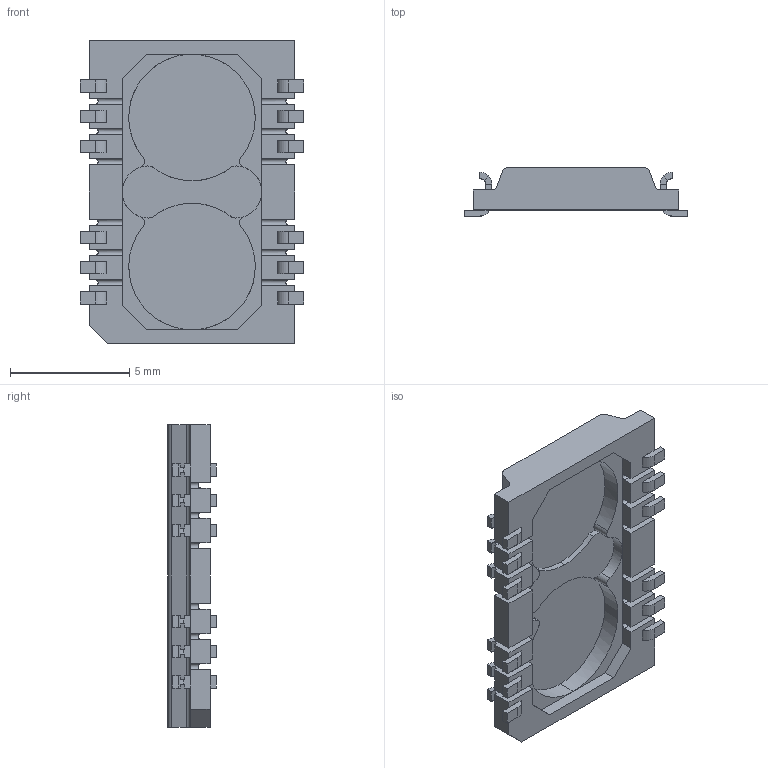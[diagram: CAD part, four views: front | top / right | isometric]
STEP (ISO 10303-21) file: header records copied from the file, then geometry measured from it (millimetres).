
FILE_DESCRIPTION (( 'STEP AP214' ), '1' );
FILE_NAME ('HM0068ANL_3D.STEP', '2018-06-21T03:30:42', ( '' ), ( '' ), 'SwSTEP 2.0', 'SolidWorks 2015', '' );
FILE_SCHEMA (( 'AUTOMOTIVE_DESIGN' ));
Length unit declared in the file: millimetre
Products named in the file (1): HM0068ANL_3D
Bounding box: 9.36 x 2.03 x 12.7 mm (x, y, z)
Volume: 96.4 mm3; surface area: 398.7 mm2
Topology: 13 solids, 13 shells, 455 faces, 1254 edges, 813 vertices
Faces by surface type: plane 337, cylinder 118
Entity records: 20333 total; most frequent: CARTESIAN_POINT 3607, ORIENTED_EDGE 2508, DIRECTION 2247, EDGE_CURVE 1254, VECTOR 967, LINE 967, VERTEX_POINT 813, AXIS2_PLACEMENT_3D 640
